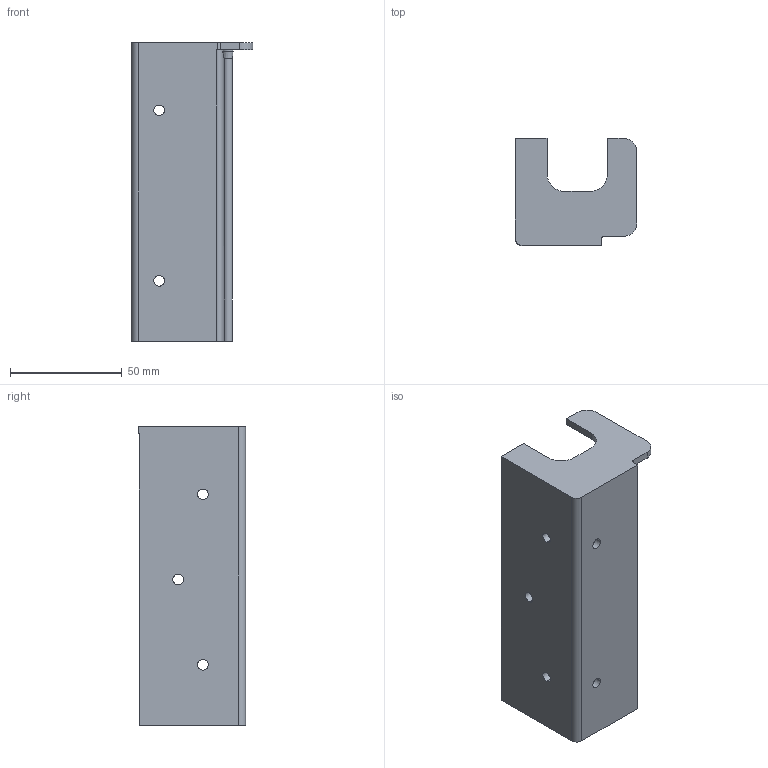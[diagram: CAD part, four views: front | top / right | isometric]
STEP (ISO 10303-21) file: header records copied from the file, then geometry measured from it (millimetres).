
FILE_DESCRIPTION (( 'STEP AP203' ), '1' );
FILE_NAME ('Push button 02 WITH PROBE SOCKET 19mm.STEP', '2020-01-28T23:11:49', ( '' ), ( '' ), 'SwSTEP 2.0', 'SolidWorks 2017', '' );
FILE_SCHEMA (( 'CONFIG_CONTROL_DESIGN' ));
Length unit declared in the file: inch
Products named in the file (1): Push button 02 WITH PROBE SOCKET 19mm
Bounding box: 54.48 x 47.88 x 133.35 mm (x, y, z)
Volume: 67580.8 mm3; surface area: 31738.2 mm2
Topology: 1 solids, 1 shells, 55 faces, 156 edges, 104 vertices
Faces by surface type: cylinder 32, plane 21, cone 2
Entity records: 1957 total; most frequent: CARTESIAN_POINT 368, DIRECTION 328, ORIENTED_EDGE 312, EDGE_CURVE 156, AXIS2_PLACEMENT_3D 120, VERTEX_POINT 104, LINE 88, VECTOR 88
